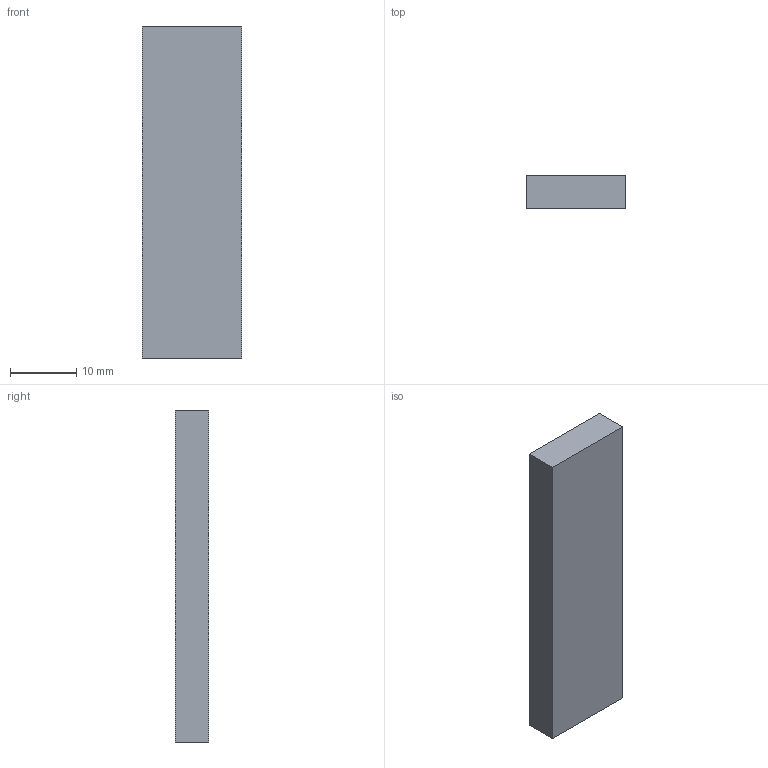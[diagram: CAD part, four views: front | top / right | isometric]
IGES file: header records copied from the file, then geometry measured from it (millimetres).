
Start section: SolidWorks IGES file using analytic representation for surfaces
Global section: file name: C:\Documents and Settings\URETIM3\Desktop\yeni katalog tolgay düzenli\E kataloðu\DÜZ LAMA PROFÝL ALPOLEN 1000\206 LMS 315.IGS; native system: SolidWorks 2006 by SolidWorks Corporation; preprocessor: SolidWorks 2006 by SolidWorks Corporation; author: URETIM3; date: 060913.085618; units: millimetre
Bounding box: 15 x 5 x 50 mm (x, y, z)
Surface area: 2150 mm2 (no closed solid volume)
Topology: 0 solids, 0 shells, 6 faces, 24 edges, 24 vertices
Faces by surface type: bspline 6
